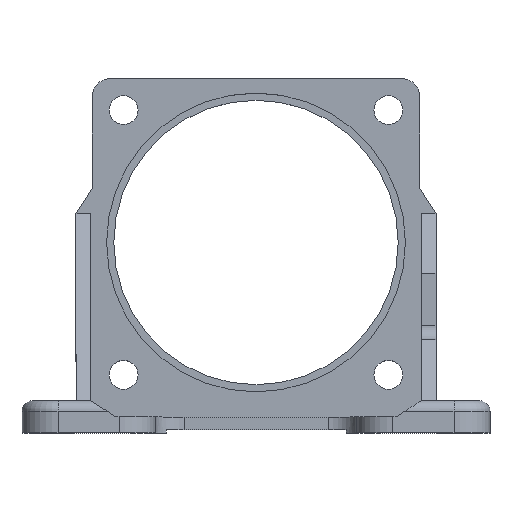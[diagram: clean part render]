
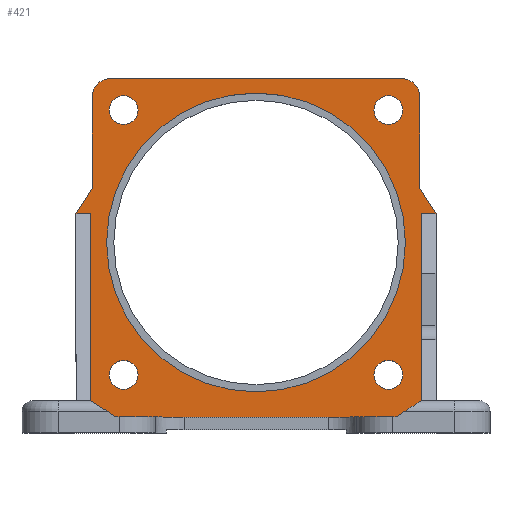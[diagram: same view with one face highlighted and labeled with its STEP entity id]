
A CAD part, top view. The second image highlights one B-rep face of the part: STEP entity #421.
In plain terms, the highlighted planar face has unit normal (0, 0, 1).
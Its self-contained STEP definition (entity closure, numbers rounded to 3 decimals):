
#180=CARTESIAN_POINT('',(46.,61.0,6.5));
#181=VERTEX_POINT('',#180);
#188=CARTESIAN_POINT('',(46.,9.,6.5));
#189=VERTEX_POINT('',#188);
#190=CARTESIAN_POINT('',(46.,9.0,6.5));
#191=DIRECTION('',(0.0,1.0,0.0));
#192=VECTOR('',#191,52.0);
#193=LINE('',#190,#192);
#194=EDGE_CURVE('',#189,#181,#193,.T.);
#219=CARTESIAN_POINT('',(50.0,61.,6.5));
#220=VERTEX_POINT('',#219);
#227=CARTESIAN_POINT('',(46.,61.,6.5));
#228=DIRECTION('',(1.0,0.0,0.0));
#229=VECTOR('',#228,4.);
#230=LINE('',#227,#229);
#231=EDGE_CURVE('',#181,#220,#230,.T.);
#261=CARTESIAN_POINT('',(0.,51.402,6.5));
#262=DIRECTION('',(0.0,0.0,1.0));
#263=DIRECTION('',(1.0,0.0,0.0));
#264=AXIS2_PLACEMENT_3D('',#261,#262,#263);
#265=PLANE('',#264);
#266=ORIENTED_EDGE('',*,*,#194,.T.);
#267=ORIENTED_EDGE('',*,*,#231,.T.);
#268=CARTESIAN_POINT('',(45.5,68.,6.5));
#269=VERTEX_POINT('',#268);
#270=CARTESIAN_POINT('',(45.5,68.,6.5));
#271=DIRECTION('',(0.541,-0.841,0.0));
#272=VECTOR('',#271,8.322);
#273=LINE('',#270,#272);
#274=EDGE_CURVE('',#269,#220,#273,.T.);
#275=ORIENTED_EDGE('',*,*,#274,.F.);
#276=CARTESIAN_POINT('',(45.5,93.5,6.5));
#277=VERTEX_POINT('',#276);
#278=CARTESIAN_POINT('',(45.5,93.5,6.5));
#279=DIRECTION('',(0.0,-1.0,0.0));
#280=VECTOR('',#279,25.5);
#281=LINE('',#278,#280);
#282=EDGE_CURVE('',#277,#269,#281,.T.);
#283=ORIENTED_EDGE('',*,*,#282,.F.);
#284=CARTESIAN_POINT('',(40.5,98.5,6.5));
#285=VERTEX_POINT('',#284);
#286=CARTESIAN_POINT('',(40.5,93.5,6.5));
#287=DIRECTION('',(0.0,0.0,-1.));
#288=DIRECTION('',(0.707,0.707,0.0));
#289=AXIS2_PLACEMENT_3D('',#286,#287,#288);
#290=CIRCLE('',#289,5.);
#291=EDGE_CURVE('',#285,#277,#290,.T.);
#292=ORIENTED_EDGE('',*,*,#291,.F.);
#293=CARTESIAN_POINT('',(-40.5,98.5,6.5));
#294=VERTEX_POINT('',#293);
#295=CARTESIAN_POINT('',(-40.5,98.5,6.5));
#296=DIRECTION('',(1.0,0.0,0.0));
#297=VECTOR('',#296,81.0);
#298=LINE('',#295,#297);
#299=EDGE_CURVE('',#294,#285,#298,.T.);
#300=ORIENTED_EDGE('',*,*,#299,.F.);
#301=CARTESIAN_POINT('',(-45.5,93.5,6.5));
#302=VERTEX_POINT('',#301);
#303=CARTESIAN_POINT('',(-40.5,93.5,6.5));
#304=DIRECTION('',(0.0,0.0,-1.));
#305=DIRECTION('',(-0.707,0.707,0.0));
#306=AXIS2_PLACEMENT_3D('',#303,#304,#305);
#307=CIRCLE('',#306,5.);
#308=EDGE_CURVE('',#302,#294,#307,.T.);
#309=ORIENTED_EDGE('',*,*,#308,.F.);
#310=CARTESIAN_POINT('',(-45.5,68.0,6.5));
#311=VERTEX_POINT('',#310);
#312=CARTESIAN_POINT('',(-45.5,68.0,6.5));
#313=DIRECTION('',(0.0,1.0,0.0));
#314=VECTOR('',#313,25.5);
#315=LINE('',#312,#314);
#316=EDGE_CURVE('',#311,#302,#315,.T.);
#317=ORIENTED_EDGE('',*,*,#316,.F.);
#318=CARTESIAN_POINT('',(-50.,61.0,6.5));
#319=VERTEX_POINT('',#318);
#320=CARTESIAN_POINT('',(-50.0,61.0,6.5));
#321=DIRECTION('',(0.541,0.841,0.0));
#322=VECTOR('',#321,8.322);
#323=LINE('',#320,#322);
#324=EDGE_CURVE('',#319,#311,#323,.T.);
#325=ORIENTED_EDGE('',*,*,#324,.F.);
#326=CARTESIAN_POINT('',(-46.,61.0,6.5));
#327=VERTEX_POINT('',#326);
#328=CARTESIAN_POINT('',(-50.,61.,6.5));
#329=DIRECTION('',(1.0,0.0,0.0));
#330=VECTOR('',#329,4.);
#331=LINE('',#328,#330);
#332=EDGE_CURVE('',#319,#327,#331,.T.);
#333=ORIENTED_EDGE('',*,*,#332,.T.);
#334=CARTESIAN_POINT('',(-46.,9.,6.5));
#335=VERTEX_POINT('',#334);
#336=CARTESIAN_POINT('',(-46.,61.0,6.5));
#337=DIRECTION('',(0.0,-1.0,0.0));
#338=VECTOR('',#337,52.);
#339=LINE('',#336,#338);
#340=EDGE_CURVE('',#327,#335,#339,.T.);
#341=ORIENTED_EDGE('',*,*,#340,.T.);
#342=CARTESIAN_POINT('',(-39.0,4.5,6.5));
#343=VERTEX_POINT('',#342);
#344=CARTESIAN_POINT('',(-46.,9.,6.5));
#345=DIRECTION('',(0.841,-0.541,0.0));
#346=VECTOR('',#345,8.322);
#347=LINE('',#344,#346);
#348=EDGE_CURVE('',#335,#343,#347,.T.);
#349=ORIENTED_EDGE('',*,*,#348,.T.);
#350=CARTESIAN_POINT('',(39.0,4.5,6.5));
#351=VERTEX_POINT('',#350);
#352=CARTESIAN_POINT('',(-39.0,4.5,6.5));
#353=DIRECTION('',(1.0,0.0,0.0));
#354=VECTOR('',#353,78.0);
#355=LINE('',#352,#354);
#356=EDGE_CURVE('',#343,#351,#355,.T.);
#357=ORIENTED_EDGE('',*,*,#356,.T.);
#358=CARTESIAN_POINT('',(39.0,4.5,6.5));
#359=DIRECTION('',(0.841,0.541,0.0));
#360=VECTOR('',#359,8.322);
#361=LINE('',#358,#360);
#362=EDGE_CURVE('',#351,#189,#361,.T.);
#363=ORIENTED_EDGE('',*,*,#362,.T.);
#364=EDGE_LOOP('',(#266,#267,#275,#283,#292,#300,#309,#317,#325,#333,#341,#349,#357,#363));
#365=FACE_OUTER_BOUND('',#364,.T.);
#366=CARTESIAN_POINT('',(32.77,16.23,6.5));
#367=VERTEX_POINT('',#366);
#368=CARTESIAN_POINT('',(36.77,16.23,6.5));
#369=DIRECTION('',(0.0,0.0,-1.0));
#370=DIRECTION('',(1.0,0.0,0.0));
#371=AXIS2_PLACEMENT_3D('',#368,#369,#370);
#372=CIRCLE('',#371,4.0);
#373=EDGE_CURVE('',#367,#367,#372,.T.);
#374=ORIENTED_EDGE('',*,*,#373,.T.);
#375=EDGE_LOOP('',(#374));
#376=FACE_BOUND('',#375,.T.);
#377=CARTESIAN_POINT('',(-40.77,16.23,6.5));
#378=VERTEX_POINT('',#377);
#379=CARTESIAN_POINT('',(-36.77,16.23,6.5));
#380=DIRECTION('',(0.0,0.0,-1.0));
#381=DIRECTION('',(1.0,0.0,0.0));
#382=AXIS2_PLACEMENT_3D('',#379,#380,#381);
#383=CIRCLE('',#382,4.0);
#384=EDGE_CURVE('',#378,#378,#383,.T.);
#385=ORIENTED_EDGE('',*,*,#384,.T.);
#386=EDGE_LOOP('',(#385));
#387=FACE_BOUND('',#386,.T.);
#388=CARTESIAN_POINT('',(-40.77,89.77,6.5));
#389=VERTEX_POINT('',#388);
#390=CARTESIAN_POINT('',(-36.77,89.77,6.5));
#391=DIRECTION('',(0.0,0.0,-1.0));
#392=DIRECTION('',(1.0,0.0,0.0));
#393=AXIS2_PLACEMENT_3D('',#390,#391,#392);
#394=CIRCLE('',#393,4.0);
#395=EDGE_CURVE('',#389,#389,#394,.T.);
#396=ORIENTED_EDGE('',*,*,#395,.T.);
#397=EDGE_LOOP('',(#396));
#398=FACE_BOUND('',#397,.T.);
#399=CARTESIAN_POINT('',(32.77,89.77,6.5));
#400=VERTEX_POINT('',#399);
#401=CARTESIAN_POINT('',(36.77,89.77,6.5));
#402=DIRECTION('',(0.0,0.0,-1.0));
#403=DIRECTION('',(1.0,0.0,0.0));
#404=AXIS2_PLACEMENT_3D('',#401,#402,#403);
#405=CIRCLE('',#404,4.0);
#406=EDGE_CURVE('',#400,#400,#405,.T.);
#407=ORIENTED_EDGE('',*,*,#406,.T.);
#408=EDGE_LOOP('',(#407));
#409=FACE_BOUND('',#408,.T.);
#410=CARTESIAN_POINT('',(41.5,53.,6.5));
#411=VERTEX_POINT('',#410);
#412=CARTESIAN_POINT('',(0.0,53.,6.5));
#413=DIRECTION('',(0.0,0.0,-1.0));
#414=DIRECTION('',(-1.0,0.0,0.0));
#415=AXIS2_PLACEMENT_3D('',#412,#413,#414);
#416=CIRCLE('',#415,41.5);
#417=EDGE_CURVE('',#411,#411,#416,.T.);
#418=ORIENTED_EDGE('',*,*,#417,.T.);
#419=EDGE_LOOP('',(#418));
#420=FACE_BOUND('',#419,.T.);
#421=ADVANCED_FACE('',(#365,#376,#387,#398,#409,#420),#265,.T.);
